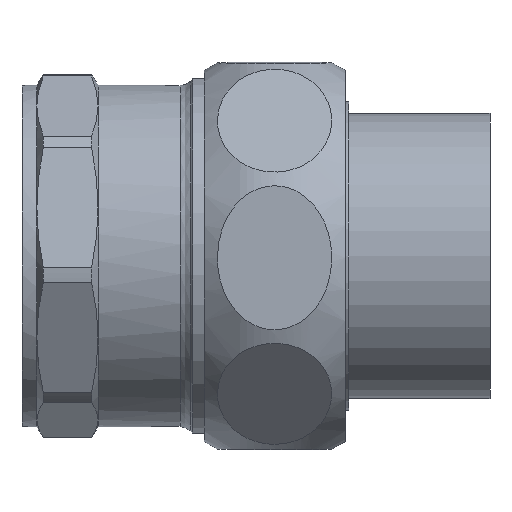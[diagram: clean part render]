
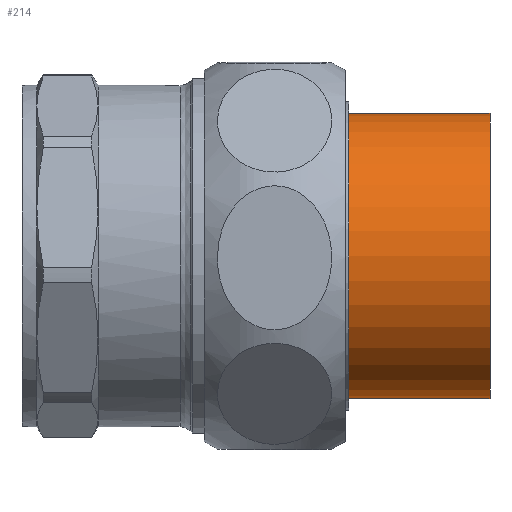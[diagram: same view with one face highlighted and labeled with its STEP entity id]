
A CAD part, front view. The second image highlights one B-rep face of the part: STEP entity #214.
In plain terms, the highlighted cylindrical face has radius 19.2 mm (diameter 38.4 mm), a full revolution.
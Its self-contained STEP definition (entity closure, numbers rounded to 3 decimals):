
#183=CARTESIAN_POINT('',(8.,19.2,0.0));
#184=VERTEX_POINT('',#183);
#185=CARTESIAN_POINT('',(8.,0.0,0.0));
#186=DIRECTION('',(1.0,0.0,0.0));
#187=DIRECTION('',(0.0,1.0,0.0));
#188=AXIS2_PLACEMENT_3D('',#185,#186,#187);
#189=CIRCLE('',#188,19.2);
#190=EDGE_CURVE('',#184,#184,#189,.T.);
#195=CARTESIAN_POINT('',(17.5,0.0,0.0));
#196=DIRECTION('',(1.0,0.0,0.0));
#197=DIRECTION('',(0.0,1.0,0.0));
#198=AXIS2_PLACEMENT_3D('',#195,#196,#197);
#199=CYLINDRICAL_SURFACE('',#198,19.2);
#200=CARTESIAN_POINT('',(27.0,19.2,0.0));
#201=VERTEX_POINT('',#200);
#202=CARTESIAN_POINT('',(27.0,0.0,0.0));
#203=DIRECTION('',(1.0,0.0,0.0));
#204=DIRECTION('',(0.0,1.0,0.0));
#205=AXIS2_PLACEMENT_3D('',#202,#203,#204);
#206=CIRCLE('',#205,19.2);
#207=EDGE_CURVE('',#201,#201,#206,.T.);
#208=ORIENTED_EDGE('',*,*,#207,.F.);
#209=EDGE_LOOP('',(#208));
#210=FACE_OUTER_BOUND('',#209,.T.);
#211=ORIENTED_EDGE('',*,*,#190,.T.);
#212=EDGE_LOOP('',(#211));
#213=FACE_BOUND('',#212,.T.);
#214=ADVANCED_FACE('',(#210,#213),#199,.T.);
